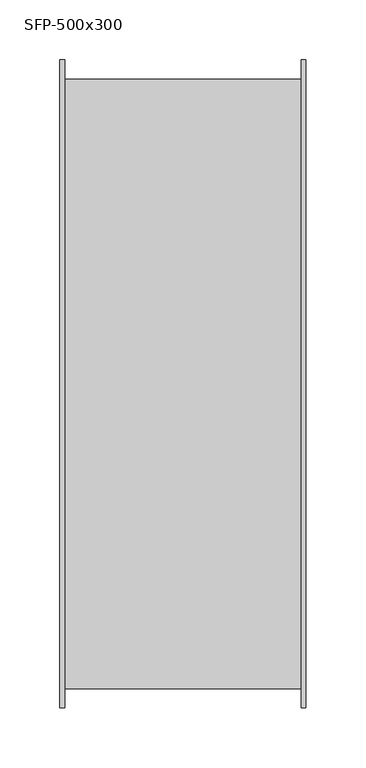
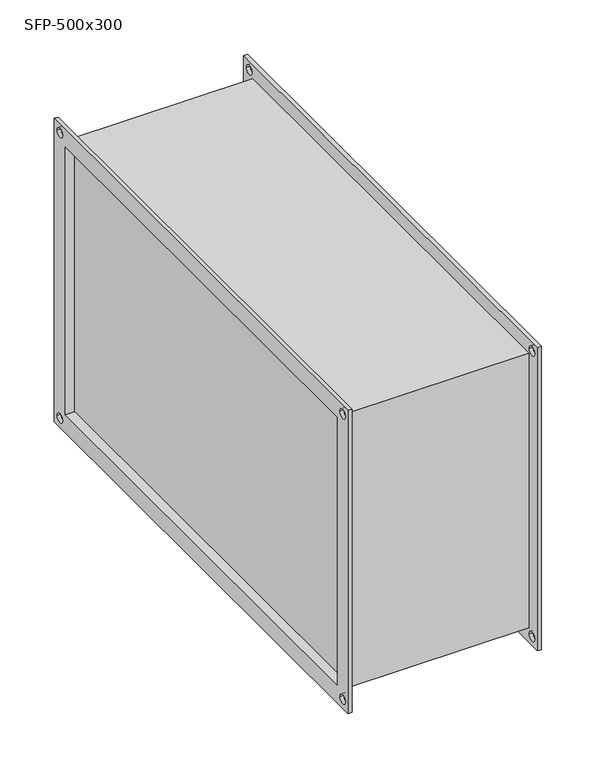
"""IFC4 building model written with IfcOpenShell, lengths in millimetres: damper geometry, СВ_ФильтрКассетный_КанальныйПрямоугольный_200-1000_SFP : SFP-500x300."""

from ifc_helpers import new_model, si_unit, frame, origin, place, context, project, spatial, polyline, circle_curve, outline, extrude, source, transform, mapped, element, save
from ifc_brep_helpers import plane_surface, revolved_surface, advanced_brep


def sfp_500x300_c732ff67(model_context):
    return source(origin(), model_context, "Body", "SolidModel", [
        extrude(outline(polyline([(92.5, 250.0), (92.5, -250.0), (-92.5, -250.0), (-92.5, 250.0), (92.5, 250.0)])), frame((0.0, 0.0, -150.0), z_axis=(0.0, 0.0, 1.0), x_axis=(1.0, 0.0, 0.0)), (0.0, 0.0, 1.0), 300.0),
        advanced_brep(
        [(98.5, -254.0, 154.0), (-98.5, -254.0, 154.0), (-98.5, -254.0, -154.0), (98.5, -254.0, -154.0), (-98.5, 254.0, -154.0), (98.5, 254.0, -154.0), (-98.5, 254.0, 154.0), (98.5, 254.0, 154.0), (-102.5, -270.0, 170.0), (-102.5, 270.0, 170.0), (-102.5, 270.0, -170.0), (-102.5, -270.0, -170.0), (-102.5, -250.0, 150.0), (-102.5, -250.0, -150.0), (-102.5, 250.0, -150.0), (-102.5, 250.0, 150.0), (-102.5, 255.0, 160.0), (-102.5, 265.0, 160.0), (-102.5, -265.0, 160.0), (-102.5, -255.0, 160.0), (-102.5, -265.0, -160.0), (-102.5, -255.0, -160.0), (-102.5, 255.0, -160.0), (-102.5, 265.0, -160.0), (-98.5, -270.0, 170.0), (-98.5, -270.0, -170.0), (-98.5, 270.0, -170.0), (-98.5, 270.0, 170.0), (-98.5, 265.0, 160.0), (-98.5, 255.0, 160.0), (-98.5, -255.0, 160.0), (-98.5, -265.0, 160.0), (-98.5, -255.0, -160.0), (-98.5, -265.0, -160.0), (-98.5, 265.0, -160.0), (-98.5, 255.0, -160.0), (98.5, 270.0, 170.0), (98.5, 270.0, -170.0), (98.5, -270.0, -170.0), (98.5, -270.0, 170.0), (98.5, 255.0, 160.0), (98.5, 265.0, 160.0), (98.5, -265.0, 160.0), (98.5, -255.0, 160.0), (98.5, -265.0, -160.0), (98.5, -255.0, -160.0), (98.5, 255.0, -160.0), (98.5, 265.0, -160.0), (102.5, 270.0, 170.0), (102.5, -270.0, 170.0), (102.5, -270.0, -170.0), (102.5, 270.0, -170.0), (102.5, 250.0, 150.0), (102.5, 250.0, -150.0), (102.5, -250.0, -150.0), (102.5, -250.0, 150.0), (102.5, 265.0, 160.0), (102.5, 255.0, 160.0), (102.5, -255.0, 160.0), (102.5, -265.0, 160.0), (102.5, -255.0, -160.0), (102.5, -265.0, -160.0), (102.5, 265.0, -160.0), (102.5, 255.0, -160.0)],
        [
            (0, 1),
            (1, 2),
            (2, 3),
            (3, 0),
            (2, 4),
            (4, 5),
            (5, 3),
            (4, 6),
            (6, 7),
            (7, 5),
            (0, 7),
            (6, 1),
            (8, 9),
            (9, 10),
            (10, 11),
            (11, 8),
            (12, 13),
            (13, 14),
            (14, 15),
            (15, 12),
            (16, 17, circle_curve(frame((-102.5, 260.0, 160.0), z_axis=(1.0, 0.0, 0.0), x_axis=(0.0, 1.0, 0.0)), 5.0)),
            (17, 16, circle_curve(frame((-102.5, 260.0, 160.0), z_axis=(1.0, 0.0, 0.0), x_axis=(0.0, 1.0, 0.0)), 5.0)),
            (18, 19, circle_curve(frame((-102.5, -260.0, 160.0), z_axis=(1.0, 0.0, 0.0), x_axis=(0.0, 1.0, 0.0)), 5.0)),
            (19, 18, circle_curve(frame((-102.5, -260.0, 160.0), z_axis=(1.0, 0.0, 0.0), x_axis=(0.0, 1.0, 0.0)), 5.0)),
            (20, 21, circle_curve(frame((-102.5, -260.0, -160.0), z_axis=(1.0, 0.0, 0.0), x_axis=(0.0, 1.0, 0.0)), 5.0)),
            (21, 20, circle_curve(frame((-102.5, -260.0, -160.0), z_axis=(1.0, 0.0, 0.0), x_axis=(0.0, 1.0, 0.0)), 5.0)),
            (22, 23, circle_curve(frame((-102.5, 260.0, -160.0), z_axis=(1.0, 0.0, 0.0), x_axis=(0.0, 1.0, 0.0)), 5.0)),
            (23, 22, circle_curve(frame((-102.5, 260.0, -160.0), z_axis=(1.0, 0.0, 0.0), x_axis=(0.0, 1.0, 0.0)), 5.0)),
            (24, 25),
            (25, 26),
            (26, 27),
            (27, 24),
            (28, 29, circle_curve(frame((-98.5, 260.0, 160.0), z_axis=(-1.0, 0.0, 0.0), x_axis=(0.0, 1.0, 0.0)), 5.0)),
            (29, 28, circle_curve(frame((-98.5, 260.0, 160.0), z_axis=(-1.0, 0.0, 0.0), x_axis=(0.0, 1.0, 0.0)), 5.0)),
            (30, 31, circle_curve(frame((-98.5, -260.0, 160.0), z_axis=(-1.0, 0.0, 0.0), x_axis=(0.0, 1.0, 0.0)), 5.0)),
            (31, 30, circle_curve(frame((-98.5, -260.0, 160.0), z_axis=(-1.0, 0.0, 0.0), x_axis=(0.0, 1.0, 0.0)), 5.0)),
            (32, 33, circle_curve(frame((-98.5, -260.0, -160.0), z_axis=(-1.0, 0.0, 0.0), x_axis=(0.0, 1.0, 0.0)), 5.0)),
            (33, 32, circle_curve(frame((-98.5, -260.0, -160.0), z_axis=(-1.0, 0.0, 0.0), x_axis=(0.0, 1.0, 0.0)), 5.0)),
            (34, 35, circle_curve(frame((-98.5, 260.0, -160.0), z_axis=(-1.0, 0.0, 0.0), x_axis=(0.0, 1.0, 0.0)), 5.0)),
            (35, 34, circle_curve(frame((-98.5, 260.0, -160.0), z_axis=(-1.0, 0.0, 0.0), x_axis=(0.0, 1.0, 0.0)), 5.0)),
            (11, 25),
            (24, 8),
            (10, 26),
            (9, 27),
            (36, 37),
            (37, 38),
            (38, 39),
            (39, 36),
            (40, 41, circle_curve(frame((98.5, 260.0, 160.0), z_axis=(1.0, 0.0, 0.0), x_axis=(0.0, 1.0, 0.0)), 5.0)),
            (41, 40, circle_curve(frame((98.5, 260.0, 160.0), z_axis=(1.0, 0.0, 0.0), x_axis=(0.0, 1.0, 0.0)), 5.0)),
            (42, 43, circle_curve(frame((98.5, -260.0, 160.0), z_axis=(1.0, 0.0, 0.0), x_axis=(0.0, 1.0, 0.0)), 5.0)),
            (43, 42, circle_curve(frame((98.5, -260.0, 160.0), z_axis=(1.0, 0.0, 0.0), x_axis=(0.0, 1.0, 0.0)), 5.0)),
            (44, 45, circle_curve(frame((98.5, -260.0, -160.0), z_axis=(1.0, 0.0, 0.0), x_axis=(0.0, 1.0, 0.0)), 5.0)),
            (45, 44, circle_curve(frame((98.5, -260.0, -160.0), z_axis=(1.0, 0.0, 0.0), x_axis=(0.0, 1.0, 0.0)), 5.0)),
            (46, 47, circle_curve(frame((98.5, 260.0, -160.0), z_axis=(1.0, 0.0, 0.0), x_axis=(0.0, 1.0, 0.0)), 5.0)),
            (47, 46, circle_curve(frame((98.5, 260.0, -160.0), z_axis=(1.0, 0.0, 0.0), x_axis=(0.0, 1.0, 0.0)), 5.0)),
            (48, 49),
            (49, 50),
            (50, 51),
            (51, 48),
            (52, 53),
            (53, 54),
            (54, 55),
            (55, 52),
            (56, 57, circle_curve(frame((102.5, 260.0, 160.0), z_axis=(-1.0, 0.0, 0.0), x_axis=(0.0, 1.0, 0.0)), 5.0)),
            (57, 56, circle_curve(frame((102.5, 260.0, 160.0), z_axis=(-1.0, 0.0, 0.0), x_axis=(0.0, 1.0, 0.0)), 5.0)),
            (58, 59, circle_curve(frame((102.5, -260.0, 160.0), z_axis=(-1.0, 0.0, 0.0), x_axis=(0.0, 1.0, 0.0)), 5.0)),
            (59, 58, circle_curve(frame((102.5, -260.0, 160.0), z_axis=(-1.0, 0.0, 0.0), x_axis=(0.0, 1.0, 0.0)), 5.0)),
            (60, 61, circle_curve(frame((102.5, -260.0, -160.0), z_axis=(-1.0, 0.0, 0.0), x_axis=(0.0, 1.0, 0.0)), 5.0)),
            (61, 60, circle_curve(frame((102.5, -260.0, -160.0), z_axis=(-1.0, 0.0, 0.0), x_axis=(0.0, 1.0, 0.0)), 5.0)),
            (62, 63, circle_curve(frame((102.5, 260.0, -160.0), z_axis=(-1.0, 0.0, 0.0), x_axis=(0.0, 1.0, 0.0)), 5.0)),
            (63, 62, circle_curve(frame((102.5, 260.0, -160.0), z_axis=(-1.0, 0.0, 0.0), x_axis=(0.0, 1.0, 0.0)), 5.0)),
            (39, 49),
            (48, 36),
            (38, 50),
            (37, 51),
            (15, 52),
            (55, 12),
            (14, 53),
            (13, 54),
            (16, 29),
            (28, 17),
            (40, 57),
            (56, 41),
            (18, 31),
            (30, 19),
            (42, 59),
            (58, 43),
            (20, 33),
            (32, 21),
            (44, 61),
            (60, 45),
            (22, 35),
            (34, 23),
            (46, 63),
            (62, 47),
        ],
        [
            plane_surface(frame((98.5, -254.0, 154.0), z_axis=(0.0, -1.0, 0.0), x_axis=(-1.0, 0.0, 0.0))),
            plane_surface(frame((98.5, -254.0, -154.0), z_axis=(0.0, 0.0, -1.0), x_axis=(-1.0, 0.0, 0.0))),
            plane_surface(frame((98.5, 254.0, -154.0), z_axis=(0.0, 1.0, 0.0), x_axis=(-1.0, 0.0, 0.0))),
            plane_surface(frame((98.5, 254.0, 154.0), z_axis=(0.0, 0.0, 1.0), x_axis=(-1.0, 0.0, 0.0))),
            plane_surface(frame((-102.5, -270.0, 170.0), z_axis=(-1.0, 0.0, 0.0), x_axis=(0.0, 0.0, 1.0))),
            plane_surface(frame((-98.5, -270.0, 170.0), z_axis=(1.0, 0.0, 0.0), x_axis=(0.0, 0.0, -1.0))),
            plane_surface(frame((-98.5, -270.0, 170.0), z_axis=(0.0, -1.0, 0.0), x_axis=(-1.0, 0.0, 0.0))),
            plane_surface(frame((-98.5, -270.0, -170.0), z_axis=(0.0, 0.0, -1.0), x_axis=(-1.0, 0.0, 0.0))),
            plane_surface(frame((-98.5, 270.0, -170.0), z_axis=(0.0, 1.0, 0.0), x_axis=(-1.0, 0.0, 0.0))),
            plane_surface(frame((-98.5, 270.0, 170.0), z_axis=(0.0, 0.0, 1.0), x_axis=(-1.0, 0.0, 0.0))),
            plane_surface(frame((98.5, 250.0, -150.0), z_axis=(-1.0, 0.0, 0.0), x_axis=(0.0, 0.0, 1.0))),
            plane_surface(frame((102.5, 250.0, -150.0), z_axis=(1.0, 0.0, 0.0), x_axis=(0.0, 0.0, -1.0))),
            plane_surface(frame((102.5, 270.0, 170.0), z_axis=(0.0, 0.0, 1.0), x_axis=(-1.0, 0.0, 0.0))),
            plane_surface(frame((102.5, -270.0, 170.0), z_axis=(0.0, -1.0, 0.0), x_axis=(-1.0, 0.0, 0.0))),
            plane_surface(frame((102.5, -270.0, -170.0), z_axis=(0.0, 0.0, -1.0), x_axis=(-1.0, 0.0, 0.0))),
            plane_surface(frame((102.5, 270.0, -170.0), z_axis=(0.0, 1.0, 0.0), x_axis=(-1.0, 0.0, 0.0))),
            plane_surface(frame((-98.5, -250.0, 150.0), z_axis=(0.0, 0.0, -1.0), x_axis=(-1.0, 0.0, 0.0))),
            plane_surface(frame((-98.5, 250.0, 150.0), z_axis=(0.0, -1.0, 0.0), x_axis=(-1.0, 0.0, 0.0))),
            plane_surface(frame((-98.5, 250.0, -150.0), z_axis=(0.0, 0.0, 1.0), x_axis=(-1.0, 0.0, 0.0))),
            plane_surface(frame((-98.5, -250.0, -150.0), z_axis=(0.0, 1.0, 0.0), x_axis=(-1.0, 0.0, 0.0))),
            revolved_surface(polyline([(-98.5, 265.0, 160.0), (-102.5, 265.0, 160.0)]), (-102.5, 260.0, 160.0), (1.0, 0.0, 0.0)),
            revolved_surface(polyline([(102.5, 265.0, 160.0), (98.5, 265.0, 160.0)]), (-102.5, 260.0, 160.0), (1.0, 0.0, 0.0)),
            revolved_surface(polyline([(-98.5, -255.0, 160.0), (-102.5, -255.0, 160.0)]), (0.0, -260.0, 160.0), (1.0, 0.0, 0.0)),
            revolved_surface(polyline([(102.5, -255.0, 160.0), (98.5, -255.0, 160.0)]), (0.0, -260.0, 160.0), (1.0, 0.0, 0.0)),
            revolved_surface(polyline([(-98.5, -255.0, -160.0), (-102.5, -255.0, -160.0)]), (0.0, -260.0, -160.0), (1.0, 0.0, 0.0)),
            revolved_surface(polyline([(102.5, -255.0, -160.0), (98.5, -255.0, -160.0)]), (0.0, -260.0, -160.0), (1.0, 0.0, 0.0)),
            revolved_surface(polyline([(-98.5, 265.0, -160.0), (-102.5, 265.0, -160.0)]), (0.0, 260.0, -160.0), (1.0, 0.0, 0.0)),
            revolved_surface(polyline([(102.5, 265.0, -160.0), (98.5, 265.0, -160.0)]), (0.0, 260.0, -160.0), (1.0, 0.0, 0.0)),
        ],
        [
            (0, [[1, 2, 3, 4]]),
            (1, [[-3, 5, 6, 7]]),
            (2, [[-6, 8, 9, 10]]),
            (3, [[-1, 11, -9, 12]]),
            (4, [[13, 14, 15, 16], [17, 18, 19, 20], [21, 22], [23, 24], [25, 26], [27, 28]]),
            (5, [[29, 30, 31, 32], [-2, -12, -8, -5], [33, 34], [35, 36], [37, 38], [39, 40]]),
            (6, [[-16, 41, -29, 42]]),
            (7, [[-15, 43, -30, -41]]),
            (8, [[-14, 44, -31, -43]]),
            (9, [[-13, -42, -32, -44]]),
            (10, [[45, 46, 47, 48], [-4, -7, -10, -11], [49, 50], [51, 52], [53, 54], [55, 56]]),
            (11, [[57, 58, 59, 60], [61, 62, 63, 64], [65, 66], [67, 68], [69, 70], [71, 72]]),
            (12, [[-48, 73, -57, 74]]),
            (13, [[-47, 75, -58, -73]]),
            (14, [[-46, 76, -59, -75]]),
            (15, [[-45, -74, -60, -76]]),
            (16, [[-20, 77, -64, 78]]),
            (17, [[-77, -19, 79, -61]]),
            (18, [[-79, -18, 80, -62]]),
            (19, [[-80, -17, -78, -63]]),
            (20, [[81, -33, 82, -21]]),
            (21, [[83, -65, 84, -49]]),
            (20, [[-81, -22, -82, -34]]),
            (21, [[-83, -50, -84, -66]]),
            (22, [[85, -35, 86, -23]]),
            (23, [[87, -67, 88, -51]]),
            (22, [[-85, -24, -86, -36]]),
            (23, [[-87, -52, -88, -68]]),
            (24, [[89, -37, 90, -25]]),
            (25, [[91, -69, 92, -53]]),
            (24, [[-89, -26, -90, -38]]),
            (25, [[-91, -54, -92, -70]]),
            (26, [[93, -39, 94, -27]]),
            (27, [[95, -71, 96, -55]]),
            (26, [[-93, -28, -94, -40]]),
            (27, [[-95, -56, -96, -72]]),
        ],
    ),
    ])


if __name__ == "__main__":
    model = new_model("IFC4")
    model_context = context("Model", 3, world=origin())
    ifc_project = project(units=[si_unit("LENGTHUNIT", "METRE", prefix="MILLI")], contexts=[model_context])
    site = spatial("IfcSite", under=ifc_project)
    building = spatial("IfcBuilding", under=site)
    placement = place(None, origin())
    sfp_500x300_shape = sfp_500x300_c732ff67(model_context)
    element("IfcDamper", 1, ObjectType="СВ_ФильтрКассетный_КанальныйПрямоугольный_200-1000_SFP : SFP-500x300", at=placement, inside=building, context=model_context, shape_type="MappedRepresentation", body=[
        mapped(sfp_500x300_shape, transform((0.0, 0.0, 0.0), x_axis=(1.0, 0.0, 0.0), y_axis=(0.0, 1.0, 0.0), z_axis=(0.0, 0.0, 1.0))),
    ])
    save(model, "model.ifc")
